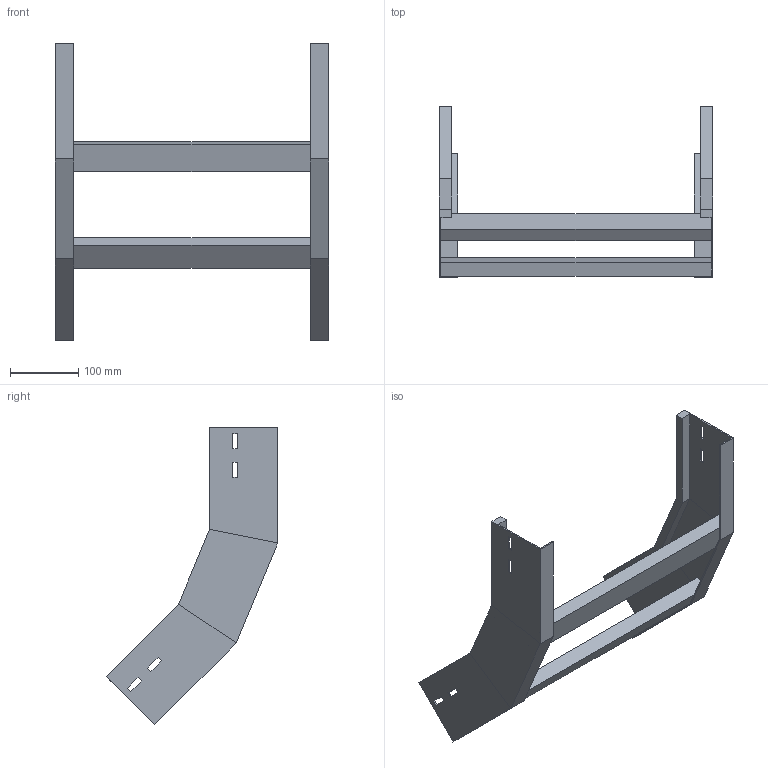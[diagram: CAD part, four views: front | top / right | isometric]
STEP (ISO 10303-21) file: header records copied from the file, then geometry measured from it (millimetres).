
FILE_DESCRIPTION (( 'STEP AP214' ), '1' );
FILE_NAME ('A2X31B3D400XX.step', '2025-03-20T10:03:57', ( '' ), ( '' ), 'SwSTEP 2.0', 'SolidWorks 2023', '' );
FILE_SCHEMA (( 'AUTOMOTIVE_DESIGN' ));
Length unit declared in the file: millimetre
Products named in the file (3): A2X31B3D400XX; LONGH.SALITA_45°_H100_R300; TRAVERSINO_400
Assembly tree (4 placements, depth 2):
  A2X31B3D400XX
    LONGH.SALITA_45°_H100_R300  x2
    TRAVERSINO_400  x2
Bounding box: 400 x 251.29 x 435.96 mm (x, y, z)
Volume: 1034310.5 mm3; surface area: 362891 mm2
Topology: 4 solids, 4 shells, 96 faces, 232 edges, 144 vertices
Faces by surface type: plane 96
Entity records: 1472 total; most frequent: CARTESIAN_POINT 243, ORIENTED_EDGE 232, DIRECTION 226, EDGE_CURVE 116, VECTOR 116, LINE 116, VERTEX_POINT 72, EDGE_LOOP 56
